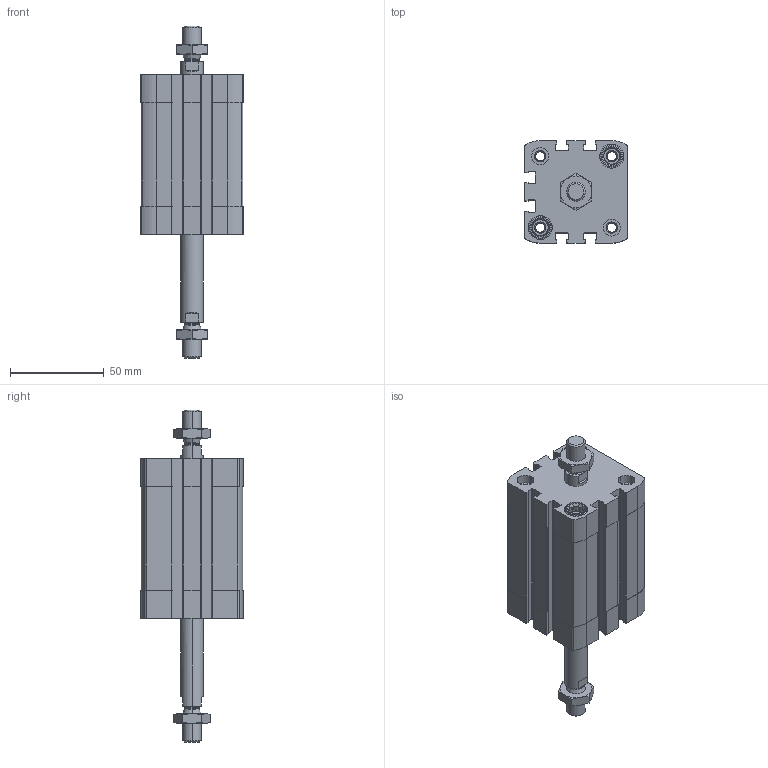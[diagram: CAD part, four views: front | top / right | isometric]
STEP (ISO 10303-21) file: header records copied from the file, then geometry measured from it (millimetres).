
FILE_DESCRIPTION (( 'STEP AP203' ), '1' );
FILE_NAME ('CCN40-40-P.STEP', '2020-06-22T18:52:56', ( '' ), ( '' ), 'SwSTEP 2.0', 'SolidWorks 2019', '' );
FILE_SCHEMA (( 'CONFIG_CONTROL_DESIGN' ));
Length unit declared in the file: millimetre
Products named in the file (1): CCN40-40-P
Bounding box: 54.5 x 54.5 x 176.6 mm (x, y, z)
Volume: 183543.7 mm3; surface area: 59581.9 mm2
Topology: 4 solids, 4 shells, 536 faces, 1418 edges, 922 vertices
Faces by surface type: plane 288, cylinder 180, cone 60, torus 8
Entity records: 17391 total; most frequent: CARTESIAN_POINT 3745, DIRECTION 2902, ORIENTED_EDGE 2836, EDGE_CURVE 1418, AXIS2_PLACEMENT_3D 1071, VERTEX_POINT 922, VECTOR 760, LINE 760
